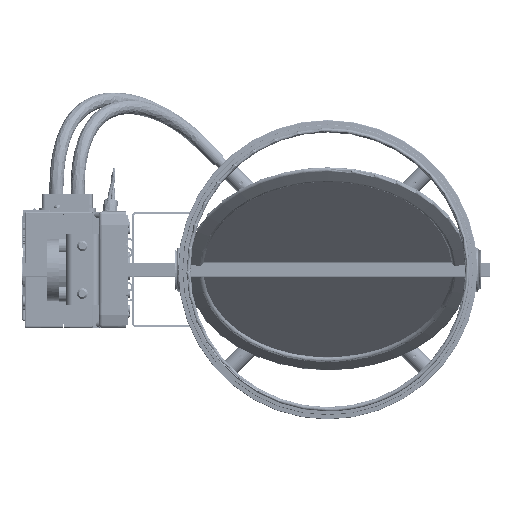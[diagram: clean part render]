
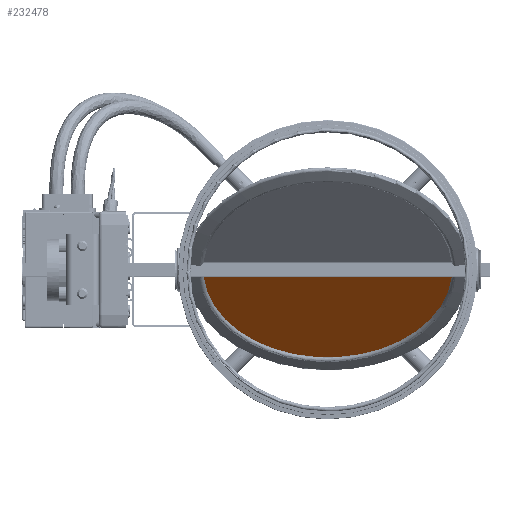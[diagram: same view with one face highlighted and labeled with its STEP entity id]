
A CAD part, left-side view. The second image highlights one B-rep face of the part: STEP entity #232478.
In plain terms, the highlighted planar face has unit normal (-0.707, 0, -0.707) as drawn and (0, 0, -1) by its records, which use the part's own axes.
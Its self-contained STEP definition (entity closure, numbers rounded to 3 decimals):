
#25763 = DIRECTION ( 'NONE',  ( 0., 0., 1. ) ) ;
#30642 = AXIS2_PLACEMENT_3D ( 'NONE', #340789, #338917, #103376 ) ;
#74371 = ORIENTED_EDGE ( 'NONE', *, *, #135187, .T. ) ;
#85045 = ORIENTED_EDGE ( 'NONE', *, *, #281866, .F. ) ;
#90475 = DIRECTION ( 'NONE',  ( 0., -1., 0. ) ) ;
#92364 = LINE ( 'NONE', #295583, #193225 ) ;
#103376 = DIRECTION ( 'NONE',  ( -1., 0., 0. ) ) ;
#104484 = CARTESIAN_POINT ( 'NONE',  ( 6.071, 229.67, -0.66 ) ) ;
#114909 = DIRECTION ( 'NONE',  ( 1., 0., 0. ) ) ;
#135187 = EDGE_CURVE ( 'NONE', #283197, #298624, #194298, .T. ) ;
#170741 = EDGE_LOOP ( 'NONE', ( #85045, #74371 ) ) ;
#185775 = AXIS2_PLACEMENT_3D ( 'NONE', #342977, #25763, #114909 ) ;
#193225 = VECTOR ( 'NONE', #90475, 1000. ) ;
#194298 = CIRCLE ( 'NONE', #30642, 70.592 ) ;
#198537 = FACE_OUTER_BOUND ( 'NONE', #170741, .T. ) ;
#226960 = PLANE ( 'NONE',  #185775 ) ;
#232478 = ADVANCED_FACE ( 'NONE', ( #198537 ), #226960, .F. ) ;
#281866 = EDGE_CURVE ( 'NONE', #283197, #298624, #92364, .T. ) ;
#283197 = VERTEX_POINT ( 'NONE', #330858 ) ;
#295583 = CARTESIAN_POINT ( 'NONE',  ( 6.071, 600., -0.66 ) ) ;
#298624 = VERTEX_POINT ( 'NONE', #104484 ) ;
#330858 = CARTESIAN_POINT ( 'NONE',  ( 6.071, 370.33, -0.66 ) ) ;
#338917 = DIRECTION ( 'NONE',  ( 0., 0., -1. ) ) ;
#340789 = CARTESIAN_POINT ( 'NONE',  ( 0., 300., -0.66 ) ) ;
#342977 = CARTESIAN_POINT ( 'NONE',  ( 6.071, 600., -0.66 ) ) ;
